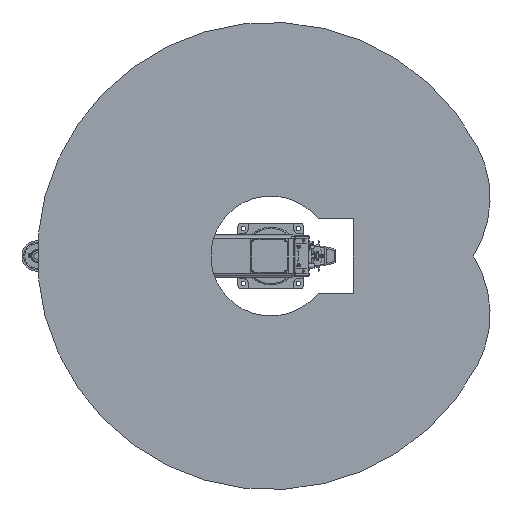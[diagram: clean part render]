
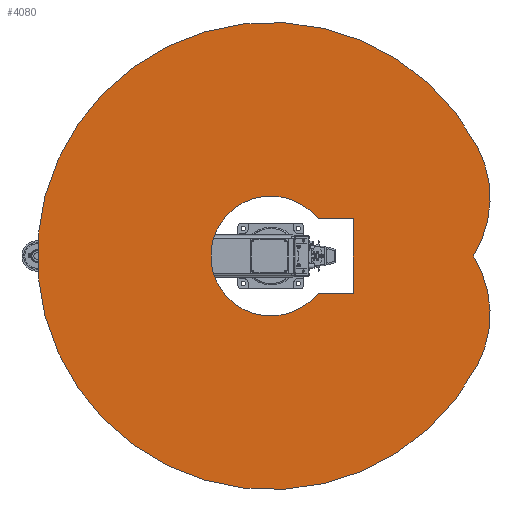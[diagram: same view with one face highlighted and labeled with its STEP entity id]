
A CAD part, front view. The second image highlights one B-rep face of the part: STEP entity #4080.
In plain terms, the highlighted planar face has unit normal (0, -1, 0).
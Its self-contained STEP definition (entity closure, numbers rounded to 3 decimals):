
#4080 = ADVANCED_FACE( '', ( #10131, #10132 ), #10133, .F. );
#10131 = FACE_BOUND( '', #18891, .T. );
#10132 = FACE_OUTER_BOUND( '', #18892, .T. );
#10133 = PLANE( '', #18893 );
#18891 = EDGE_LOOP( '', ( #31912, #31913, #31914, #31915 ) );
#18892 = EDGE_LOOP( '', ( #31916, #31917, #31918 ) );
#18893 = AXIS2_PLACEMENT_3D( '', #31919, #31920, #31921 );
#31912 = ORIENTED_EDGE( '', *, *, #47277, .T. );
#31913 = ORIENTED_EDGE( '', *, *, #49839, .T. );
#31914 = ORIENTED_EDGE( '', *, *, #46499, .T. );
#31915 = ORIENTED_EDGE( '', *, *, #49840, .T. );
#31916 = ORIENTED_EDGE( '', *, *, #48353, .F. );
#31917 = ORIENTED_EDGE( '', *, *, #49841, .F. );
#31918 = ORIENTED_EDGE( '', *, *, #49842, .F. );
#31919 = CARTESIAN_POINT( '', ( 105.631, 0., 198.663 ) );
#31920 = DIRECTION( '', ( 0., 1., 0. ) );
#31921 = DIRECTION( '', ( 0., 0., 1. ) );
#46499 = EDGE_CURVE( '', #54480, #54481, #54482, .T. );
#47277 = EDGE_CURVE( '', #55851, #55852, #55853, .T. );
#48353 = EDGE_CURVE( '', #57680, #57681, #57682, .T. );
#49839 = EDGE_CURVE( '', #55852, #54480, #60098, .T. );
#49840 = EDGE_CURVE( '', #54481, #55851, #60099, .T. );
#49841 = EDGE_CURVE( '', #60100, #57680, #60101, .T. );
#49842 = EDGE_CURVE( '', #57681, #60100, #60102, .T. );
#54480 = VERTEX_POINT( '', #66310 );
#54481 = VERTEX_POINT( '', #66311 );
#54482 = LINE( '', #66312, #66313 );
#55851 = VERTEX_POINT( '', #68419 );
#55852 = VERTEX_POINT( '', #68420 );
#55853 = LINE( '', #68421, #68422 );
#57680 = VERTEX_POINT( '', #71588 );
#57681 = VERTEX_POINT( '', #71589 );
#57682 = CIRCLE( '', #71590, 400. );
#60098 = CIRCLE( '', #75660, 218.3 );
#60099 = LINE( '', #75661, #75662 );
#60100 = VERTEX_POINT( '', #75663 );
#60101 = CIRCLE( '', #75664, 400. );
#60102 = CIRCLE( '', #75665, 850. );
#66310 = CARTESIAN_POINT( '', ( -135., 0., 171.551 ) );
#66311 = CARTESIAN_POINT( '', ( -135., 0., 300. ) );
#66312 = CARTESIAN_POINT( '', ( -135., 0., 171.551 ) );
#66313 = VECTOR( '', #85373, 1000. );
#68419 = CARTESIAN_POINT( '', ( 135., 0., 300. ) );
#68420 = CARTESIAN_POINT( '', ( 135., 0., 171.551 ) );
#68421 = CARTESIAN_POINT( '', ( 135., 0., 300. ) );
#68422 = VECTOR( '', #86419, 1000. );
#71588 = CARTESIAN_POINT( '', ( 0., 0., 736.985 ) );
#71589 = CARTESIAN_POINT( '', ( 399.051, 0., 750.505 ) );
#71590 = AXIS2_PLACEMENT_3D( '', #87750, #87751, #87752 );
#75660 = AXIS2_PLACEMENT_3D( '', #89639, #89640, #89641 );
#75661 = CARTESIAN_POINT( '', ( -135., 0., 300. ) );
#75662 = VECTOR( '', #89642, 1000. );
#75663 = CARTESIAN_POINT( '', ( -399.051, 0., 750.505 ) );
#75664 = AXIS2_PLACEMENT_3D( '', #89643, #89644, #89645 );
#75665 = AXIS2_PLACEMENT_3D( '', #89646, #89647, #89648 );
#85373 = DIRECTION( '', ( 0., 0., 1. ) );
#86419 = DIRECTION( '', ( 0., 0., -1. ) );
#87750 = CARTESIAN_POINT( '', ( 211.262, 0., 397.326 ) );
#87751 = DIRECTION( '', ( 0., 1., 0. ) );
#87752 = DIRECTION( '', ( 1., 0., 0. ) );
#89639 = CARTESIAN_POINT( '', ( 0., 0., 0. ) );
#89640 = DIRECTION( '', ( 0., 1., 0. ) );
#89641 = DIRECTION( '', ( 1., 0., 0. ) );
#89642 = DIRECTION( '', ( 1., 0., 0. ) );
#89643 = CARTESIAN_POINT( '', ( -211.262, 0., 397.326 ) );
#89644 = DIRECTION( '', ( 0., 1., 0. ) );
#89645 = DIRECTION( '', ( 1., 0., 0. ) );
#89646 = CARTESIAN_POINT( '', ( 0., 0., 0. ) );
#89647 = DIRECTION( '', ( 0., 1., 0. ) );
#89648 = DIRECTION( '', ( 1., 0., 0. ) );
